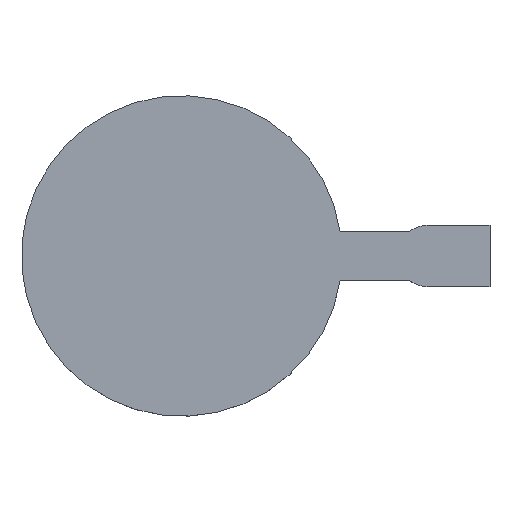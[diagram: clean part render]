
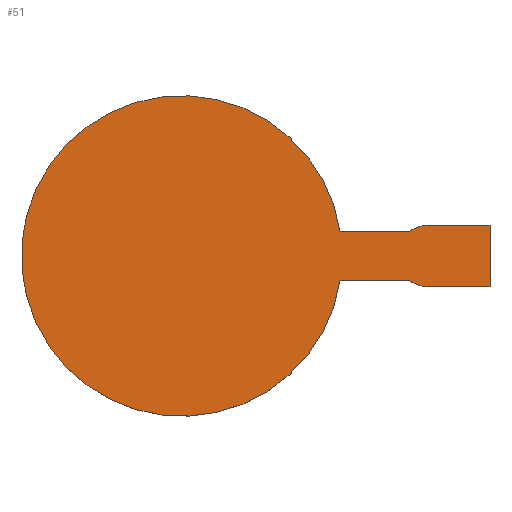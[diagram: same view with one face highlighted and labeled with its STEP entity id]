
A CAD part, top view. The second image highlights one B-rep face of the part: STEP entity #51.
In plain terms, the highlighted planar face has unit normal (0, 0, 1).
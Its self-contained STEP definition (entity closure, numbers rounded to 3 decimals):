
#51 = ADVANCED_FACE( '', ( #114 ), #115, .F. );
#114 = FACE_OUTER_BOUND( '', #188, .T. );
#115 = PLANE( '', #189 );
#188 = EDGE_LOOP( '', ( #271, #272, #273, #274, #275, #276, #277, #278 ) );
#189 = AXIS2_PLACEMENT_3D( '', #279, #280, #281 );
#271 = ORIENTED_EDGE( '', *, *, #443, .F. );
#272 = ORIENTED_EDGE( '', *, *, #444, .T. );
#273 = ORIENTED_EDGE( '', *, *, #445, .T. );
#274 = ORIENTED_EDGE( '', *, *, #446, .T. );
#275 = ORIENTED_EDGE( '', *, *, #434, .T. );
#276 = ORIENTED_EDGE( '', *, *, #447, .T. );
#277 = ORIENTED_EDGE( '', *, *, #448, .T. );
#278 = ORIENTED_EDGE( '', *, *, #449, .T. );
#279 = CARTESIAN_POINT( '', ( -125., 125., 0. ) );
#280 = DIRECTION( '', ( 0., 0., -1. ) );
#281 = DIRECTION( '', ( 0., 1., 0. ) );
#434 = EDGE_CURVE( '', #509, #507, #510, .T. );
#443 = EDGE_CURVE( '', #524, #525, #526, .T. );
#444 = EDGE_CURVE( '', #524, #527, #528, .T. );
#445 = EDGE_CURVE( '', #527, #529, #530, .T. );
#446 = EDGE_CURVE( '', #529, #509, #531, .T. );
#447 = EDGE_CURVE( '', #507, #532, #533, .T. );
#448 = EDGE_CURVE( '', #532, #534, #535, .T. );
#449 = EDGE_CURVE( '', #534, #525, #536, .T. );
#507 = VERTEX_POINT( '', #613 );
#509 = VERTEX_POINT( '', #616 );
#510 = CIRCLE( '', #617, 65. );
#524 = VERTEX_POINT( '', #634 );
#525 = VERTEX_POINT( '', #635 );
#526 = LINE( '', #636, #637 );
#527 = VERTEX_POINT( '', #638 );
#528 = LINE( '', #639, #640 );
#529 = VERTEX_POINT( '', #641 );
#530 = CIRCLE( '', #642, 12.5 );
#531 = LINE( '', #643, #644 );
#532 = VERTEX_POINT( '', #645 );
#533 = LINE( '', #646, #647 );
#534 = VERTEX_POINT( '', #648 );
#535 = CIRCLE( '', #649, 12.5 );
#536 = LINE( '', #650, #651 );
#613 = CARTESIAN_POINT( '', ( 64.226, -10., 0. ) );
#616 = CARTESIAN_POINT( '', ( 64.226, 10., 0. ) );
#617 = AXIS2_PLACEMENT_3D( '', #750, #751, #752 );
#634 = CARTESIAN_POINT( '', ( 125., 12.5, 0. ) );
#635 = CARTESIAN_POINT( '', ( 125., -12.5, 0. ) );
#636 = CARTESIAN_POINT( '', ( 125., 125., 0. ) );
#637 = VECTOR( '', #765, 1000. );
#638 = CARTESIAN_POINT( '', ( 100., 12.5, 0. ) );
#639 = CARTESIAN_POINT( '', ( 148.185, 12.5, 0. ) );
#640 = VECTOR( '', #766, 1000. );
#641 = CARTESIAN_POINT( '', ( 92.5, 10., 0. ) );
#642 = AXIS2_PLACEMENT_3D( '', #767, #768, #769 );
#643 = CARTESIAN_POINT( '', ( 100., 10., 0. ) );
#644 = VECTOR( '', #770, 1000. );
#645 = CARTESIAN_POINT( '', ( 92.5, -10., 0. ) );
#646 = CARTESIAN_POINT( '', ( 0., -10., 0. ) );
#647 = VECTOR( '', #771, 1000. );
#648 = CARTESIAN_POINT( '', ( 100., -12.5, 0. ) );
#649 = AXIS2_PLACEMENT_3D( '', #772, #773, #774 );
#650 = CARTESIAN_POINT( '', ( 100., -12.5, 0. ) );
#651 = VECTOR( '', #775, 1000. );
#750 = CARTESIAN_POINT( '', ( 0., 0., 0. ) );
#751 = DIRECTION( '', ( 0., 0., 1. ) );
#752 = DIRECTION( '', ( 1., 0., 0. ) );
#765 = DIRECTION( '', ( 0., -1., 0. ) );
#766 = DIRECTION( '', ( -1., 0., 0. ) );
#767 = CARTESIAN_POINT( '', ( 100., 0., 0. ) );
#768 = DIRECTION( '', ( 0., 0., 1. ) );
#769 = DIRECTION( '', ( 0., 1., 0. ) );
#770 = DIRECTION( '', ( -1., 0., 0. ) );
#771 = DIRECTION( '', ( 1., 0., 0. ) );
#772 = CARTESIAN_POINT( '', ( 100., 0., 0. ) );
#773 = DIRECTION( '', ( 0., 0., 1. ) );
#774 = DIRECTION( '', ( 0., 1., 0. ) );
#775 = DIRECTION( '', ( 1., 0., 0. ) );
